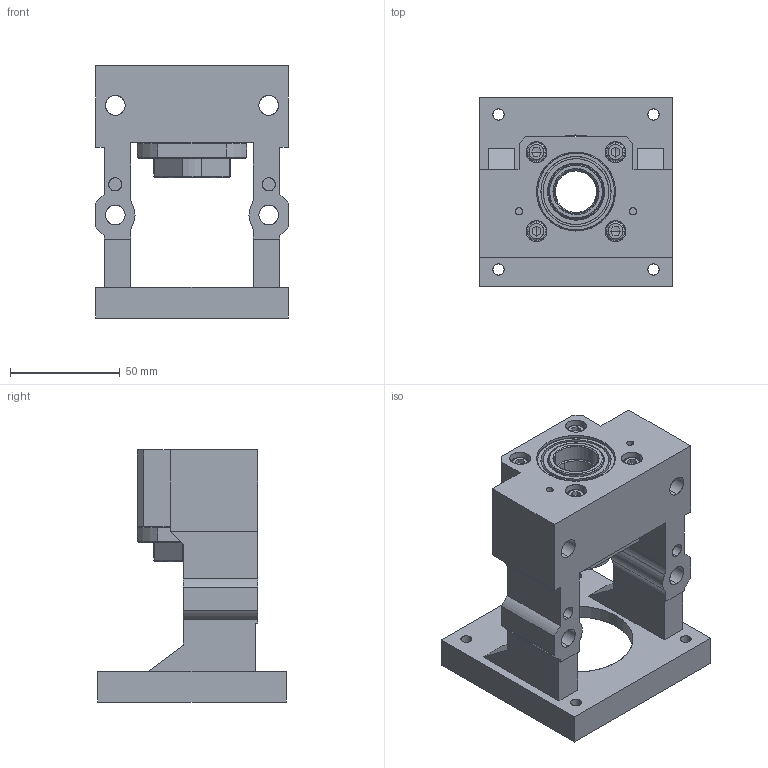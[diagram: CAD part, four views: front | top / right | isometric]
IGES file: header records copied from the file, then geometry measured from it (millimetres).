
Start section: SolidWorks IGES file using analytic representation for surfaces
Bounding box: 88 x 86 x 115 mm (x, y, z)
Surface area: 66341.9 mm2 (no closed solid volume)
Topology: 0 solids, 0 shells, 270 faces, 4401 edges, 4393 vertices
Faces by surface type: revolution 140, bspline 130
